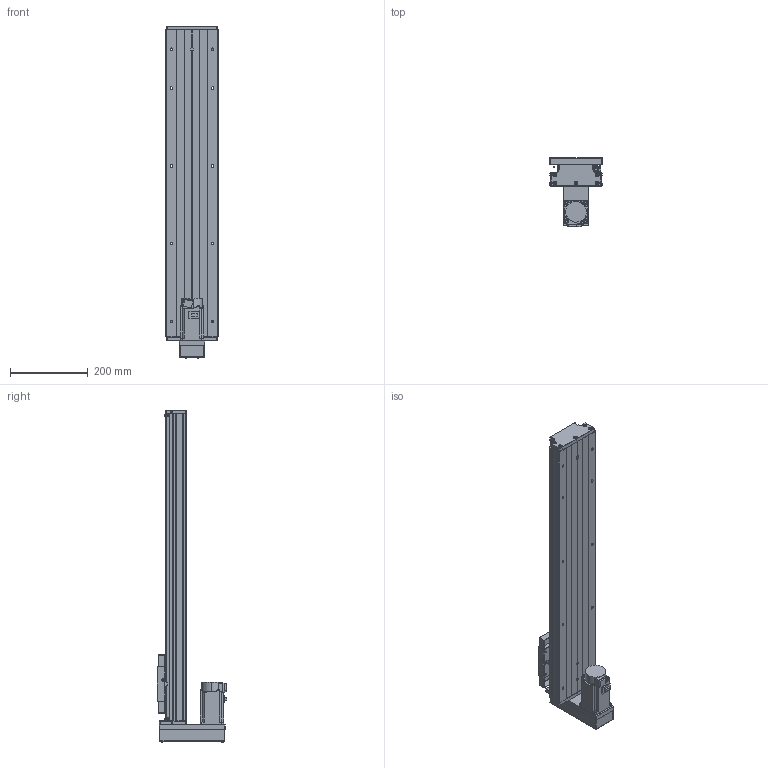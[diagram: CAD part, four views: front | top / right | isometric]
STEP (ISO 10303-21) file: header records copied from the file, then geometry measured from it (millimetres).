
FILE_DESCRIPTION (( 'STEP AP203' ), '1' );
FILE_NAME ('CTH130-600-BM-M40-C4.step', '2023-06-30T02:45:35', ( '微软用户' ), ( '微软中国' ), 'SwSTEP 2.0', 'SolidWorks 2020', '' );
FILE_SCHEMA (( 'CONFIG_CONTROL_DESIGN' ));
Length unit declared in the file: millimetre
Products named in the file (20): CTHA60-017; す晦芛蹟隊 M3℅5; CTH130-002_GTH14-002; EE_SX911P_R; HG-KN43J-S100; GBT 70.2-M4¡Á35_M4¡Á35; GB T308.1-2013-6.35; CTHA60-016; GTH14-015-2_CTHA86-015-2; GTH14-004; GBT 70.1-M3℅5; GTH14-033; GTH14-005; GBT77-2000 M3×3; CTH130-600-BM-M40-C4; GB1155-6X6; CTH130-031; GBT70.1 M5℅16; GBT 70.2-M3¡Á5_M3¡Á6; GTH14-001_600
Assembly tree (60 placements, depth 2):
  CTH130-600-BM-M40-C4
    GTH14-001_600
    CTH130-002_GTH14-002
    GB T308.1-2013-6.35  x2
    GTH14-004
    GTH14-005
    GB1155-6X6  x2
    GBT70.1 M5℅16  x10
    CTHA60-017  x3
    EE_SX911P_R  x3
    CTHA60-016  x2
    GBT 70.1-M3℅5  x6
    GBT77-2000 M3×3  x6
    CTH130-031
    GBT 70.2-M3¡Á5_M3¡Á6  x8
    す晦芛蹟隊 M3℅5  x6
    HG-KN43J-S100
    GBT 70.2-M4¡Á35_M4¡Á35  x4
    GTH14-015-2_CTHA86-015-2
    GTH14-033
Bounding box: 135 x 179.8 x 854.2 mm (x, y, z)
Volume: 4628655.9 mm3; surface area: 792298.4 mm2
Topology: 63 solids, 63 shells, 2435 faces, 5797 edges, 3585 vertices
Faces by surface type: plane 1310, cylinder 646, cone 299, torus 124, sphere 36, bspline 20
Entity records: 43924 total; most frequent: CARTESIAN_POINT 9847, DIRECTION 6402, ORIENTED_EDGE 6300, EDGE_CURVE 3150, AXIS2_PLACEMENT_3D 2184, VECTOR 2034, LINE 2034, VERTEX_POINT 1995
